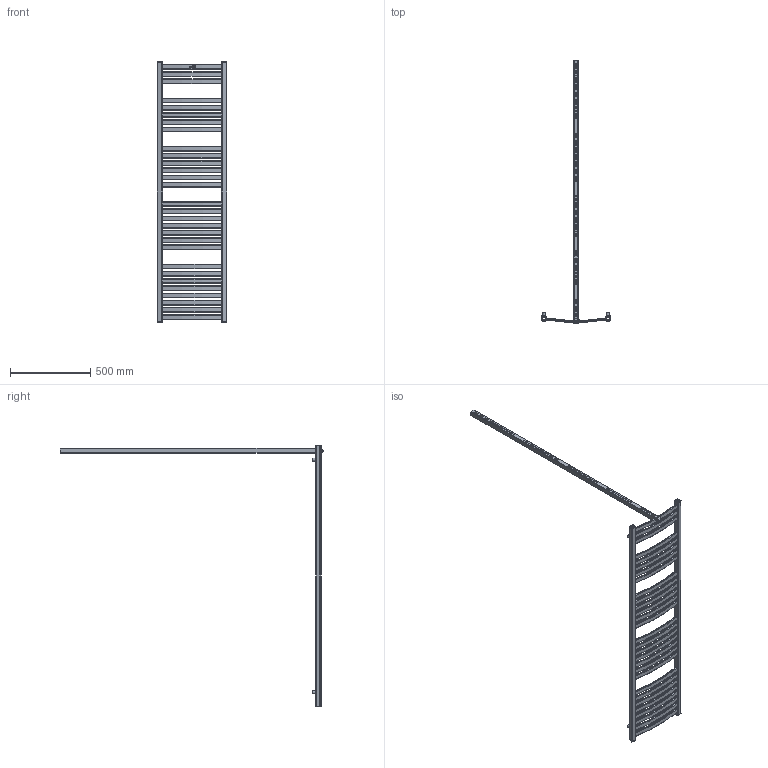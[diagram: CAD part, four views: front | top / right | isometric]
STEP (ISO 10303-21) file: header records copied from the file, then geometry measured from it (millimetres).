
FILE_DESCRIPTION( ( 'Unknown' ), '1' );
FILE_NAME( 'D:/Alplast sp. j/Witryna zespoBu - Projekty/Archiwum/Grzejniki Archiwum/Projekty/STANDARD/AK-EL/AK7-400EL.stp', 'Unknown', ( 'Unknown' ), ( 'Unknown' ), 'PSStep 10.1', 'Unknown', ' ' );
FILE_SCHEMA( ( 'AUTOMOTIVE_DESIGN { 1 0 10303 214 1 1 1 1 }' ) );
Length unit declared in the file: millimetre
Products named in the file (5): Assem1; kana³  poziomy lukowy L-400; zaslepka kwadrat otwor; AK7-EPEL; tulejka kat 12stopni
Bounding box: 433.71 x 1641 x 1630 mm (x, y, z)
Volume: 1987120.7 mm3; surface area: 2665698.6 mm2
Topology: 43 solids, 43 shells, 1430 faces, 4022 edges, 2688 vertices
Faces by surface type: plane 628, cylinder 552, torus 250
Full cylindrical faces by diameter (mm): 16 x5, 18 x5, 18.631 x5, 23 x5
Entity records: 12636 total; most frequent: DIRECTION 1836, CARTESIAN_POINT 1764, ORIENTED_EDGE 1708, EDGE_CURVE 854, AXIS2_PLACEMENT_3D 646, VERTEX_POINT 574, LINE 544, VECTOR 544
